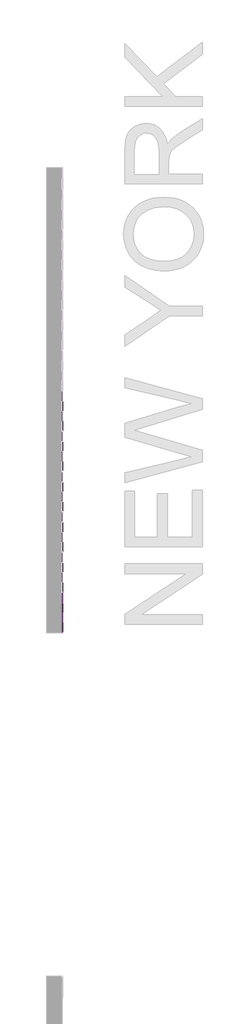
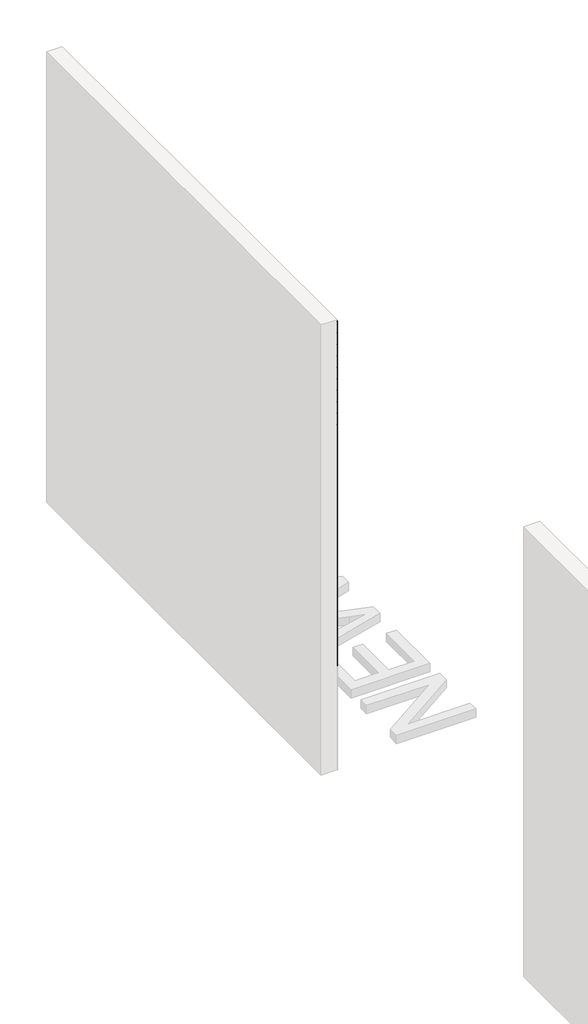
# One storey, part 21 of 45: 147 proxies.
"""IFC4 building model written with IfcOpenShell, lengths in millimetres."""

from ifc_helpers import new_model, si_unit, origin, place, context, project, spatial, transform, mapped, element, save
from components import generic_models_ab0f2c30

model = new_model("IFC4")

# Units and contexts
model_context = context("Model", 3, world=origin())
ifc_project = project(units=[si_unit("LENGTHUNIT", "METRE", prefix="MILLI")], contexts=[model_context])

# Site, building, storey
site = spatial("IfcSite", under=ifc_project)
building = spatial("IfcBuilding", under=site)
storey = spatial("IfcBuildingStorey", under=building, Name="PORTOBELLO - SHOWROOM", Elevation=0.0)

# Proxies
placement = place(None, origin())
generic_models_shape = generic_models_ab0f2c30(model_context)
element("IfcBuildingElementProxy", 1, Name="PBSHOP - HORIZONTES NEW YORK 6,5X23 : NEW YORK", ObjectType="PBSHOP - HORIZONTES NEW YORK 6,5X23 : NEW YORK", at=placement, inside=storey, context=model_context, shape_type="MappedRepresentation", body=[
    mapped(generic_models_shape, transform((69111.8826867, 6032.0036359, 34.5), x_axis=(0.0, 0.0, 1.0), y_axis=(0.0, -1.0, 0.0), z_axis=(1.0, 0.0, 0.0))),
])
element("IfcBuildingElementProxy", 2, Name="PBSHOP - HORIZONTES NEW YORK 6,5X23 : NEW YORK", ObjectType="PBSHOP - HORIZONTES NEW YORK 6,5X23 : NEW YORK", at=placement, inside=storey, context=model_context, shape_type="MappedRepresentation", body=[
    mapped(generic_models_shape, transform((69111.8826867, 6266.0036359, 34.5), x_axis=(0.0, 0.0, 1.0), y_axis=(0.0, -1.0, 0.0), z_axis=(1.0, 0.0, 0.0))),
])
element("IfcBuildingElementProxy", 3, Name="PBSHOP - HORIZONTES NEW YORK 6,5X23 : NEW YORK", ObjectType="PBSHOP - HORIZONTES NEW YORK 6,5X23 : NEW YORK", at=placement, inside=storey, context=model_context, shape_type="MappedRepresentation", body=[
    mapped(generic_models_shape, transform((69111.8826867, 6500.0036359, 34.5), x_axis=(0.0, 0.0, 1.0), y_axis=(0.0, -1.0, 0.0), z_axis=(1.0, 0.0, 0.0))),
])
element("IfcBuildingElementProxy", 4, Name="PBSHOP - HORIZONTES NEW YORK 6,5X23 : NEW YORK", ObjectType="PBSHOP - HORIZONTES NEW YORK 6,5X23 : NEW YORK", at=placement, inside=storey, context=model_context, shape_type="MappedRepresentation", body=[
    mapped(generic_models_shape, transform((69111.8826867, 6734.0036359, 34.5), x_axis=(0.0, 0.0, 1.0), y_axis=(0.0, -1.0, 0.0), z_axis=(1.0, 0.0, 0.0))),
])
element("IfcBuildingElementProxy", 5, Name="PBSHOP - HORIZONTES NEW YORK 6,5X23 : NEW YORK", ObjectType="PBSHOP - HORIZONTES NEW YORK 6,5X23 : NEW YORK", at=placement, inside=storey, context=model_context, shape_type="MappedRepresentation", body=[
    mapped(generic_models_shape, transform((69111.8826867, 6968.0036359, 34.5), x_axis=(0.0, 0.0, 1.0), y_axis=(0.0, -1.0, 0.0), z_axis=(1.0, 0.0, 0.0))),
])
element("IfcBuildingElementProxy", 6, Name="PBSHOP - HORIZONTES NEW YORK 6,5X23 : NEW YORK", ObjectType="PBSHOP - HORIZONTES NEW YORK 6,5X23 : NEW YORK", at=placement, inside=storey, context=model_context, shape_type="MappedRepresentation", body=[
    mapped(generic_models_shape, transform((69111.8826867, 6032.0036359, 103.5), x_axis=(0.0, 0.0, 1.0), y_axis=(0.0, -1.0, 0.0), z_axis=(1.0, 0.0, 0.0))),
])
element("IfcBuildingElementProxy", 7, Name="PBSHOP - HORIZONTES NEW YORK 6,5X23 : NEW YORK", ObjectType="PBSHOP - HORIZONTES NEW YORK 6,5X23 : NEW YORK", at=placement, inside=storey, context=model_context, shape_type="MappedRepresentation", body=[
    mapped(generic_models_shape, transform((69111.8826867, 6266.0036359, 103.5), x_axis=(0.0, 0.0, 1.0), y_axis=(0.0, -1.0, 0.0), z_axis=(1.0, 0.0, 0.0))),
])
element("IfcBuildingElementProxy", 8, Name="PBSHOP - HORIZONTES NEW YORK 6,5X23 : NEW YORK", ObjectType="PBSHOP - HORIZONTES NEW YORK 6,5X23 : NEW YORK", at=placement, inside=storey, context=model_context, shape_type="MappedRepresentation", body=[
    mapped(generic_models_shape, transform((69111.8826867, 6500.0036359, 103.5), x_axis=(0.0, 0.0, 1.0), y_axis=(0.0, -1.0, 0.0), z_axis=(1.0, 0.0, 0.0))),
])
element("IfcBuildingElementProxy", 9, Name="PBSHOP - HORIZONTES NEW YORK 6,5X23 : NEW YORK", ObjectType="PBSHOP - HORIZONTES NEW YORK 6,5X23 : NEW YORK", at=placement, inside=storey, context=model_context, shape_type="MappedRepresentation", body=[
    mapped(generic_models_shape, transform((69111.8826867, 6734.0036359, 103.5), x_axis=(0.0, 0.0, 1.0), y_axis=(0.0, -1.0, 0.0), z_axis=(1.0, 0.0, 0.0))),
])
element("IfcBuildingElementProxy", 10, Name="PBSHOP - HORIZONTES NEW YORK 6,5X23 : NEW YORK", ObjectType="PBSHOP - HORIZONTES NEW YORK 6,5X23 : NEW YORK", at=placement, inside=storey, context=model_context, shape_type="MappedRepresentation", body=[
    mapped(generic_models_shape, transform((69111.8826867, 6968.0036359, 103.5), x_axis=(0.0, 0.0, 1.0), y_axis=(0.0, -1.0, 0.0), z_axis=(1.0, 0.0, 0.0))),
])
element("IfcBuildingElementProxy", 11, Name="PBSHOP - HORIZONTES NEW YORK 6,5X23 : NEW YORK", ObjectType="PBSHOP - HORIZONTES NEW YORK 6,5X23 : NEW YORK", at=placement, inside=storey, context=model_context, shape_type="MappedRepresentation", body=[
    mapped(generic_models_shape, transform((69111.8826867, 6032.0036359, 172.5), x_axis=(0.0, 0.0, 1.0), y_axis=(0.0, -1.0, 0.0), z_axis=(1.0, 0.0, 0.0))),
])
element("IfcBuildingElementProxy", 12, Name="PBSHOP - HORIZONTES NEW YORK 6,5X23 : NEW YORK", ObjectType="PBSHOP - HORIZONTES NEW YORK 6,5X23 : NEW YORK", at=placement, inside=storey, context=model_context, shape_type="MappedRepresentation", body=[
    mapped(generic_models_shape, transform((69111.8826867, 6266.0036359, 172.5), x_axis=(0.0, 0.0, 1.0), y_axis=(0.0, -1.0, 0.0), z_axis=(1.0, 0.0, 0.0))),
])
element("IfcBuildingElementProxy", 13, Name="PBSHOP - HORIZONTES NEW YORK 6,5X23 : NEW YORK", ObjectType="PBSHOP - HORIZONTES NEW YORK 6,5X23 : NEW YORK", at=placement, inside=storey, context=model_context, shape_type="MappedRepresentation", body=[
    mapped(generic_models_shape, transform((69111.8826867, 6500.0036359, 172.5), x_axis=(0.0, 0.0, 1.0), y_axis=(0.0, -1.0, 0.0), z_axis=(1.0, 0.0, 0.0))),
])
element("IfcBuildingElementProxy", 14, Name="PBSHOP - HORIZONTES NEW YORK 6,5X23 : NEW YORK", ObjectType="PBSHOP - HORIZONTES NEW YORK 6,5X23 : NEW YORK", at=placement, inside=storey, context=model_context, shape_type="MappedRepresentation", body=[
    mapped(generic_models_shape, transform((69111.8826867, 6734.0036359, 172.5), x_axis=(0.0, 0.0, 1.0), y_axis=(0.0, -1.0, 0.0), z_axis=(1.0, 0.0, 0.0))),
])
element("IfcBuildingElementProxy", 15, Name="PBSHOP - HORIZONTES NEW YORK 6,5X23 : NEW YORK", ObjectType="PBSHOP - HORIZONTES NEW YORK 6,5X23 : NEW YORK", at=placement, inside=storey, context=model_context, shape_type="MappedRepresentation", body=[
    mapped(generic_models_shape, transform((69111.8826867, 6968.0036359, 172.5), x_axis=(0.0, 0.0, 1.0), y_axis=(0.0, -1.0, 0.0), z_axis=(1.0, 0.0, 0.0))),
])
element("IfcBuildingElementProxy", 16, Name="PBSHOP - HORIZONTES NEW YORK 6,5X23 : NEW YORK", ObjectType="PBSHOP - HORIZONTES NEW YORK 6,5X23 : NEW YORK", at=placement, inside=storey, context=model_context, shape_type="MappedRepresentation", body=[
    mapped(generic_models_shape, transform((69111.8826867, 6032.0036359, 241.5), x_axis=(0.0, 0.0, 1.0), y_axis=(0.0, -1.0, 0.0), z_axis=(1.0, 0.0, 0.0))),
])
element("IfcBuildingElementProxy", 17, Name="PBSHOP - HORIZONTES NEW YORK 6,5X23 : NEW YORK", ObjectType="PBSHOP - HORIZONTES NEW YORK 6,5X23 : NEW YORK", at=placement, inside=storey, context=model_context, shape_type="MappedRepresentation", body=[
    mapped(generic_models_shape, transform((69111.8826867, 6266.0036359, 241.5), x_axis=(0.0, 0.0, 1.0), y_axis=(0.0, -1.0, 0.0), z_axis=(1.0, 0.0, 0.0))),
])
element("IfcBuildingElementProxy", 18, Name="PBSHOP - HORIZONTES NEW YORK 6,5X23 : NEW YORK", ObjectType="PBSHOP - HORIZONTES NEW YORK 6,5X23 : NEW YORK", at=placement, inside=storey, context=model_context, shape_type="MappedRepresentation", body=[
    mapped(generic_models_shape, transform((69111.8826867, 6500.0036359, 241.5), x_axis=(0.0, 0.0, 1.0), y_axis=(0.0, -1.0, 0.0), z_axis=(1.0, 0.0, 0.0))),
])
element("IfcBuildingElementProxy", 19, Name="PBSHOP - HORIZONTES NEW YORK 6,5X23 : NEW YORK", ObjectType="PBSHOP - HORIZONTES NEW YORK 6,5X23 : NEW YORK", at=placement, inside=storey, context=model_context, shape_type="MappedRepresentation", body=[
    mapped(generic_models_shape, transform((69111.8826867, 6734.0036359, 241.5), x_axis=(0.0, 0.0, 1.0), y_axis=(0.0, -1.0, 0.0), z_axis=(1.0, 0.0, 0.0))),
])
element("IfcBuildingElementProxy", 20, Name="PBSHOP - HORIZONTES NEW YORK 6,5X23 : NEW YORK", ObjectType="PBSHOP - HORIZONTES NEW YORK 6,5X23 : NEW YORK", at=placement, inside=storey, context=model_context, shape_type="MappedRepresentation", body=[
    mapped(generic_models_shape, transform((69111.8826867, 6968.0036359, 241.5), x_axis=(0.0, 0.0, 1.0), y_axis=(0.0, -1.0, 0.0), z_axis=(1.0, 0.0, 0.0))),
])
element("IfcBuildingElementProxy", 21, Name="PBSHOP - HORIZONTES NEW YORK 6,5X23 : NEW YORK", ObjectType="PBSHOP - HORIZONTES NEW YORK 6,5X23 : NEW YORK", at=placement, inside=storey, context=model_context, shape_type="MappedRepresentation", body=[
    mapped(generic_models_shape, transform((69111.8826867, 6032.0036359, 310.5), x_axis=(0.0, 0.0, 1.0), y_axis=(0.0, -1.0, 0.0), z_axis=(1.0, 0.0, 0.0))),
])
element("IfcBuildingElementProxy", 22, Name="PBSHOP - HORIZONTES NEW YORK 6,5X23 : NEW YORK", ObjectType="PBSHOP - HORIZONTES NEW YORK 6,5X23 : NEW YORK", at=placement, inside=storey, context=model_context, shape_type="MappedRepresentation", body=[
    mapped(generic_models_shape, transform((69111.8826867, 6266.0036359, 310.5), x_axis=(0.0, 0.0, 1.0), y_axis=(0.0, -1.0, 0.0), z_axis=(1.0, 0.0, 0.0))),
])
element("IfcBuildingElementProxy", 23, Name="PBSHOP - HORIZONTES NEW YORK 6,5X23 : NEW YORK", ObjectType="PBSHOP - HORIZONTES NEW YORK 6,5X23 : NEW YORK", at=placement, inside=storey, context=model_context, shape_type="MappedRepresentation", body=[
    mapped(generic_models_shape, transform((69111.8826867, 6500.0036359, 310.5), x_axis=(0.0, 0.0, 1.0), y_axis=(0.0, -1.0, 0.0), z_axis=(1.0, 0.0, 0.0))),
])
element("IfcBuildingElementProxy", 24, Name="PBSHOP - HORIZONTES NEW YORK 6,5X23 : NEW YORK", ObjectType="PBSHOP - HORIZONTES NEW YORK 6,5X23 : NEW YORK", at=placement, inside=storey, context=model_context, shape_type="MappedRepresentation", body=[
    mapped(generic_models_shape, transform((69111.8826867, 6734.0036359, 310.5), x_axis=(0.0, 0.0, 1.0), y_axis=(0.0, -1.0, 0.0), z_axis=(1.0, 0.0, 0.0))),
])
element("IfcBuildingElementProxy", 25, Name="PBSHOP - HORIZONTES NEW YORK 6,5X23 : NEW YORK", ObjectType="PBSHOP - HORIZONTES NEW YORK 6,5X23 : NEW YORK", at=placement, inside=storey, context=model_context, shape_type="MappedRepresentation", body=[
    mapped(generic_models_shape, transform((69111.8826867, 6968.0036359, 310.5), x_axis=(0.0, 0.0, 1.0), y_axis=(0.0, -1.0, 0.0), z_axis=(1.0, 0.0, 0.0))),
])
element("IfcBuildingElementProxy", 26, Name="PBSHOP - HORIZONTES NEW YORK 6,5X23 : NEW YORK", ObjectType="PBSHOP - HORIZONTES NEW YORK 6,5X23 : NEW YORK", at=placement, inside=storey, context=model_context, shape_type="MappedRepresentation", body=[
    mapped(generic_models_shape, transform((69111.8826867, 6032.0036359, 379.5), x_axis=(0.0, 0.0, 1.0), y_axis=(0.0, -1.0, 0.0), z_axis=(1.0, 0.0, 0.0))),
])
element("IfcBuildingElementProxy", 27, Name="PBSHOP - HORIZONTES NEW YORK 6,5X23 : NEW YORK", ObjectType="PBSHOP - HORIZONTES NEW YORK 6,5X23 : NEW YORK", at=placement, inside=storey, context=model_context, shape_type="MappedRepresentation", body=[
    mapped(generic_models_shape, transform((69111.8826867, 6266.0036359, 379.5), x_axis=(0.0, 0.0, 1.0), y_axis=(0.0, -1.0, 0.0), z_axis=(1.0, 0.0, 0.0))),
])
element("IfcBuildingElementProxy", 28, Name="PBSHOP - HORIZONTES NEW YORK 6,5X23 : NEW YORK", ObjectType="PBSHOP - HORIZONTES NEW YORK 6,5X23 : NEW YORK", at=placement, inside=storey, context=model_context, shape_type="MappedRepresentation", body=[
    mapped(generic_models_shape, transform((69111.8826867, 6500.0036359, 379.5), x_axis=(0.0, 0.0, 1.0), y_axis=(0.0, -1.0, 0.0), z_axis=(1.0, 0.0, 0.0))),
])
element("IfcBuildingElementProxy", 29, Name="PBSHOP - HORIZONTES NEW YORK 6,5X23 : NEW YORK", ObjectType="PBSHOP - HORIZONTES NEW YORK 6,5X23 : NEW YORK", at=placement, inside=storey, context=model_context, shape_type="MappedRepresentation", body=[
    mapped(generic_models_shape, transform((69111.8826867, 6734.0036359, 379.5), x_axis=(0.0, 0.0, 1.0), y_axis=(0.0, -1.0, 0.0), z_axis=(1.0, 0.0, 0.0))),
])
element("IfcBuildingElementProxy", 30, Name="PBSHOP - HORIZONTES NEW YORK 6,5X23 : NEW YORK", ObjectType="PBSHOP - HORIZONTES NEW YORK 6,5X23 : NEW YORK", at=placement, inside=storey, context=model_context, shape_type="MappedRepresentation", body=[
    mapped(generic_models_shape, transform((69111.8826867, 6968.0036359, 379.5), x_axis=(0.0, 0.0, 1.0), y_axis=(0.0, -1.0, 0.0), z_axis=(1.0, 0.0, 0.0))),
])
element("IfcBuildingElementProxy", 31, Name="PBSHOP - HORIZONTES NEW YORK 6,5X23 : NEW YORK", ObjectType="PBSHOP - HORIZONTES NEW YORK 6,5X23 : NEW YORK", at=placement, inside=storey, context=model_context, shape_type="MappedRepresentation", body=[
    mapped(generic_models_shape, transform((69111.8826867, 6032.0036359, 448.5), x_axis=(0.0, 0.0, 1.0), y_axis=(0.0, -1.0, 0.0), z_axis=(1.0, 0.0, 0.0))),
])
element("IfcBuildingElementProxy", 32, Name="PBSHOP - HORIZONTES NEW YORK 6,5X23 : NEW YORK", ObjectType="PBSHOP - HORIZONTES NEW YORK 6,5X23 : NEW YORK", at=placement, inside=storey, context=model_context, shape_type="MappedRepresentation", body=[
    mapped(generic_models_shape, transform((69111.8826867, 6266.0036359, 448.5), x_axis=(0.0, 0.0, 1.0), y_axis=(0.0, -1.0, 0.0), z_axis=(1.0, 0.0, 0.0))),
])
element("IfcBuildingElementProxy", 33, Name="PBSHOP - HORIZONTES NEW YORK 6,5X23 : NEW YORK", ObjectType="PBSHOP - HORIZONTES NEW YORK 6,5X23 : NEW YORK", at=placement, inside=storey, context=model_context, shape_type="MappedRepresentation", body=[
    mapped(generic_models_shape, transform((69111.8826867, 6500.0036359, 448.5), x_axis=(0.0, 0.0, 1.0), y_axis=(0.0, -1.0, 0.0), z_axis=(1.0, 0.0, 0.0))),
])
element("IfcBuildingElementProxy", 34, Name="PBSHOP - HORIZONTES NEW YORK 6,5X23 : NEW YORK", ObjectType="PBSHOP - HORIZONTES NEW YORK 6,5X23 : NEW YORK", at=placement, inside=storey, context=model_context, shape_type="MappedRepresentation", body=[
    mapped(generic_models_shape, transform((69111.8826867, 6734.0036359, 448.5), x_axis=(0.0, 0.0, 1.0), y_axis=(0.0, -1.0, 0.0), z_axis=(1.0, 0.0, 0.0))),
])
element("IfcBuildingElementProxy", 35, Name="PBSHOP - HORIZONTES NEW YORK 6,5X23 : NEW YORK", ObjectType="PBSHOP - HORIZONTES NEW YORK 6,5X23 : NEW YORK", at=placement, inside=storey, context=model_context, shape_type="MappedRepresentation", body=[
    mapped(generic_models_shape, transform((69111.8826867, 6968.0036359, 448.5), x_axis=(0.0, 0.0, 1.0), y_axis=(0.0, -1.0, 0.0), z_axis=(1.0, 0.0, 0.0))),
])
element("IfcBuildingElementProxy", 36, Name="PBSHOP - HORIZONTES NEW YORK 6,5X23 : NEW YORK", ObjectType="PBSHOP - HORIZONTES NEW YORK 6,5X23 : NEW YORK", at=placement, inside=storey, context=model_context, shape_type="MappedRepresentation", body=[
    mapped(generic_models_shape, transform((69111.8826867, 6032.0036359, 517.5), x_axis=(0.0, 0.0, 1.0), y_axis=(0.0, -1.0, 0.0), z_axis=(1.0, 0.0, 0.0))),
])
element("IfcBuildingElementProxy", 37, Name="PBSHOP - HORIZONTES NEW YORK 6,5X23 : NEW YORK", ObjectType="PBSHOP - HORIZONTES NEW YORK 6,5X23 : NEW YORK", at=placement, inside=storey, context=model_context, shape_type="MappedRepresentation", body=[
    mapped(generic_models_shape, transform((69111.8826867, 6266.0036359, 517.5), x_axis=(0.0, 0.0, 1.0), y_axis=(0.0, -1.0, 0.0), z_axis=(1.0, 0.0, 0.0))),
])
element("IfcBuildingElementProxy", 38, Name="PBSHOP - HORIZONTES NEW YORK 6,5X23 : NEW YORK", ObjectType="PBSHOP - HORIZONTES NEW YORK 6,5X23 : NEW YORK", at=placement, inside=storey, context=model_context, shape_type="MappedRepresentation", body=[
    mapped(generic_models_shape, transform((69111.8826867, 6500.0036359, 517.5), x_axis=(0.0, 0.0, 1.0), y_axis=(0.0, -1.0, 0.0), z_axis=(1.0, 0.0, 0.0))),
])
element("IfcBuildingElementProxy", 39, Name="PBSHOP - HORIZONTES NEW YORK 6,5X23 : NEW YORK", ObjectType="PBSHOP - HORIZONTES NEW YORK 6,5X23 : NEW YORK", at=placement, inside=storey, context=model_context, shape_type="MappedRepresentation", body=[
    mapped(generic_models_shape, transform((69111.8826867, 6734.0036359, 517.5), x_axis=(0.0, 0.0, 1.0), y_axis=(0.0, -1.0, 0.0), z_axis=(1.0, 0.0, 0.0))),
])
element("IfcBuildingElementProxy", 40, Name="PBSHOP - HORIZONTES NEW YORK 6,5X23 : NEW YORK", ObjectType="PBSHOP - HORIZONTES NEW YORK 6,5X23 : NEW YORK", at=placement, inside=storey, context=model_context, shape_type="MappedRepresentation", body=[
    mapped(generic_models_shape, transform((69111.8826867, 6968.0036359, 517.5), x_axis=(0.0, 0.0, 1.0), y_axis=(0.0, -1.0, 0.0), z_axis=(1.0, 0.0, 0.0))),
])
element("IfcBuildingElementProxy", 41, Name="PBSHOP - HORIZONTES NEW YORK 6,5X23 : NEW YORK", ObjectType="PBSHOP - HORIZONTES NEW YORK 6,5X23 : NEW YORK", at=placement, inside=storey, context=model_context, shape_type="MappedRepresentation", body=[
    mapped(generic_models_shape, transform((69111.8826867, 6032.0036359, 586.5), x_axis=(0.0, 0.0, 1.0), y_axis=(0.0, -1.0, 0.0), z_axis=(1.0, 0.0, 0.0))),
])
element("IfcBuildingElementProxy", 42, Name="PBSHOP - HORIZONTES NEW YORK 6,5X23 : NEW YORK", ObjectType="PBSHOP - HORIZONTES NEW YORK 6,5X23 : NEW YORK", at=placement, inside=storey, context=model_context, shape_type="MappedRepresentation", body=[
    mapped(generic_models_shape, transform((69111.8826867, 6266.0036359, 586.5), x_axis=(0.0, 0.0, 1.0), y_axis=(0.0, -1.0, 0.0), z_axis=(1.0, 0.0, 0.0))),
])
element("IfcBuildingElementProxy", 43, Name="PBSHOP - HORIZONTES NEW YORK 6,5X23 : NEW YORK", ObjectType="PBSHOP - HORIZONTES NEW YORK 6,5X23 : NEW YORK", at=placement, inside=storey, context=model_context, shape_type="MappedRepresentation", body=[
    mapped(generic_models_shape, transform((69111.8826867, 6500.0036359, 586.5), x_axis=(0.0, 0.0, 1.0), y_axis=(0.0, -1.0, 0.0), z_axis=(1.0, 0.0, 0.0))),
])
element("IfcBuildingElementProxy", 44, Name="PBSHOP - HORIZONTES NEW YORK 6,5X23 : NEW YORK", ObjectType="PBSHOP - HORIZONTES NEW YORK 6,5X23 : NEW YORK", at=placement, inside=storey, context=model_context, shape_type="MappedRepresentation", body=[
    mapped(generic_models_shape, transform((69111.8826867, 6734.0036359, 586.5), x_axis=(0.0, 0.0, 1.0), y_axis=(0.0, -1.0, 0.0), z_axis=(1.0, 0.0, 0.0))),
])
element("IfcBuildingElementProxy", 45, Name="PBSHOP - HORIZONTES NEW YORK 6,5X23 : NEW YORK", ObjectType="PBSHOP - HORIZONTES NEW YORK 6,5X23 : NEW YORK", at=placement, inside=storey, context=model_context, shape_type="MappedRepresentation", body=[
    mapped(generic_models_shape, transform((69111.8826867, 6968.0036359, 586.5), x_axis=(0.0, 0.0, 1.0), y_axis=(0.0, -1.0, 0.0), z_axis=(1.0, 0.0, 0.0))),
])
element("IfcBuildingElementProxy", 46, Name="PBSHOP - HORIZONTES NEW YORK 6,5X23 : NEW YORK", ObjectType="PBSHOP - HORIZONTES NEW YORK 6,5X23 : NEW YORK", at=placement, inside=storey, context=model_context, shape_type="MappedRepresentation", body=[
    mapped(generic_models_shape, transform((69111.8826867, 5798.0036359, 655.5), x_axis=(0.0, 0.0, 1.0), y_axis=(0.0, -1.0, 0.0), z_axis=(1.0, 0.0, 0.0))),
])
element("IfcBuildingElementProxy", 47, Name="PBSHOP - HORIZONTES NEW YORK 6,5X23 : NEW YORK", ObjectType="PBSHOP - HORIZONTES NEW YORK 6,5X23 : NEW YORK", at=placement, inside=storey, context=model_context, shape_type="MappedRepresentation", body=[
    mapped(generic_models_shape, transform((69111.8826867, 6032.0036359, 655.5), x_axis=(0.0, 0.0, 1.0), y_axis=(0.0, -1.0, 0.0), z_axis=(1.0, 0.0, 0.0))),
])
element("IfcBuildingElementProxy", 48, Name="PBSHOP - HORIZONTES NEW YORK 6,5X23 : NEW YORK", ObjectType="PBSHOP - HORIZONTES NEW YORK 6,5X23 : NEW YORK", at=placement, inside=storey, context=model_context, shape_type="MappedRepresentation", body=[
    mapped(generic_models_shape, transform((69111.8826867, 6266.0036359, 655.5), x_axis=(0.0, 0.0, 1.0), y_axis=(0.0, -1.0, 0.0), z_axis=(1.0, 0.0, 0.0))),
])
element("IfcBuildingElementProxy", 49, Name="PBSHOP - HORIZONTES NEW YORK 6,5X23 : NEW YORK", ObjectType="PBSHOP - HORIZONTES NEW YORK 6,5X23 : NEW YORK", at=placement, inside=storey, context=model_context, shape_type="MappedRepresentation", body=[
    mapped(generic_models_shape, transform((69111.8826867, 6500.0036359, 655.5), x_axis=(0.0, 0.0, 1.0), y_axis=(0.0, -1.0, 0.0), z_axis=(1.0, 0.0, 0.0))),
])
element("IfcBuildingElementProxy", 50, Name="PBSHOP - HORIZONTES NEW YORK 6,5X23 : NEW YORK", ObjectType="PBSHOP - HORIZONTES NEW YORK 6,5X23 : NEW YORK", at=placement, inside=storey, context=model_context, shape_type="MappedRepresentation", body=[
    mapped(generic_models_shape, transform((69111.8826867, 6734.0036359, 655.5), x_axis=(0.0, 0.0, 1.0), y_axis=(0.0, -1.0, 0.0), z_axis=(1.0, 0.0, 0.0))),
])
element("IfcBuildingElementProxy", 51, Name="PBSHOP - HORIZONTES NEW YORK 6,5X23 : NEW YORK", ObjectType="PBSHOP - HORIZONTES NEW YORK 6,5X23 : NEW YORK", at=placement, inside=storey, context=model_context, shape_type="MappedRepresentation", body=[
    mapped(generic_models_shape, transform((69111.8826867, 6968.0036359, 655.5), x_axis=(0.0, 0.0, 1.0), y_axis=(0.0, -1.0, 0.0), z_axis=(1.0, 0.0, 0.0))),
])
element("IfcBuildingElementProxy", 52, Name="PBSHOP - HORIZONTES NEW YORK 6,5X23 : NEW YORK", ObjectType="PBSHOP - HORIZONTES NEW YORK 6,5X23 : NEW YORK", at=placement, inside=storey, context=model_context, shape_type="MappedRepresentation", body=[
    mapped(generic_models_shape, transform((69111.8826867, 5798.0036359, 724.5), x_axis=(0.0, 0.0, 1.0), y_axis=(0.0, -1.0, 0.0), z_axis=(1.0, 0.0, 0.0))),
])
element("IfcBuildingElementProxy", 53, Name="PBSHOP - HORIZONTES NEW YORK 6,5X23 : NEW YORK", ObjectType="PBSHOP - HORIZONTES NEW YORK 6,5X23 : NEW YORK", at=placement, inside=storey, context=model_context, shape_type="MappedRepresentation", body=[
    mapped(generic_models_shape, transform((69111.8826867, 6032.0036359, 724.5), x_axis=(0.0, 0.0, 1.0), y_axis=(0.0, -1.0, 0.0), z_axis=(1.0, 0.0, 0.0))),
])
element("IfcBuildingElementProxy", 54, Name="PBSHOP - HORIZONTES NEW YORK 6,5X23 : NEW YORK", ObjectType="PBSHOP - HORIZONTES NEW YORK 6,5X23 : NEW YORK", at=placement, inside=storey, context=model_context, shape_type="MappedRepresentation", body=[
    mapped(generic_models_shape, transform((69111.8826867, 6266.0036359, 724.5), x_axis=(0.0, 0.0, 1.0), y_axis=(0.0, -1.0, 0.0), z_axis=(1.0, 0.0, 0.0))),
])
element("IfcBuildingElementProxy", 55, Name="PBSHOP - HORIZONTES NEW YORK 6,5X23 : NEW YORK", ObjectType="PBSHOP - HORIZONTES NEW YORK 6,5X23 : NEW YORK", at=placement, inside=storey, context=model_context, shape_type="MappedRepresentation", body=[
    mapped(generic_models_shape, transform((69111.8826867, 6500.0036359, 724.5), x_axis=(0.0, 0.0, 1.0), y_axis=(0.0, -1.0, 0.0), z_axis=(1.0, 0.0, 0.0))),
])
element("IfcBuildingElementProxy", 56, Name="PBSHOP - HORIZONTES NEW YORK 6,5X23 : NEW YORK", ObjectType="PBSHOP - HORIZONTES NEW YORK 6,5X23 : NEW YORK", at=placement, inside=storey, context=model_context, shape_type="MappedRepresentation", body=[
    mapped(generic_models_shape, transform((69111.8826867, 6734.0036359, 724.5), x_axis=(0.0, 0.0, 1.0), y_axis=(0.0, -1.0, 0.0), z_axis=(1.0, 0.0, 0.0))),
])
element("IfcBuildingElementProxy", 57, Name="PBSHOP - HORIZONTES NEW YORK 6,5X23 : NEW YORK", ObjectType="PBSHOP - HORIZONTES NEW YORK 6,5X23 : NEW YORK", at=placement, inside=storey, context=model_context, shape_type="MappedRepresentation", body=[
    mapped(generic_models_shape, transform((69111.8826867, 6968.0036359, 724.5), x_axis=(0.0, 0.0, 1.0), y_axis=(0.0, -1.0, 0.0), z_axis=(1.0, 0.0, 0.0))),
])
element("IfcBuildingElementProxy", 58, Name="PBSHOP - HORIZONTES NEW YORK 6,5X23 : NEW YORK", ObjectType="PBSHOP - HORIZONTES NEW YORK 6,5X23 : NEW YORK", at=placement, inside=storey, context=model_context, shape_type="MappedRepresentation", body=[
    mapped(generic_models_shape, transform((69111.8826867, 5798.0036359, 793.5), x_axis=(0.0, 0.0, 1.0), y_axis=(0.0, -1.0, 0.0), z_axis=(1.0, 0.0, 0.0))),
])
element("IfcBuildingElementProxy", 59, Name="PBSHOP - HORIZONTES NEW YORK 6,5X23 : NEW YORK", ObjectType="PBSHOP - HORIZONTES NEW YORK 6,5X23 : NEW YORK", at=placement, inside=storey, context=model_context, shape_type="MappedRepresentation", body=[
    mapped(generic_models_shape, transform((69111.8826867, 6032.0036359, 793.5), x_axis=(0.0, 0.0, 1.0), y_axis=(0.0, -1.0, 0.0), z_axis=(1.0, 0.0, 0.0))),
])
element("IfcBuildingElementProxy", 60, Name="PBSHOP - HORIZONTES NEW YORK 6,5X23 : NEW YORK", ObjectType="PBSHOP - HORIZONTES NEW YORK 6,5X23 : NEW YORK", at=placement, inside=storey, context=model_context, shape_type="MappedRepresentation", body=[
    mapped(generic_models_shape, transform((69111.8826867, 6266.0036359, 793.5), x_axis=(0.0, 0.0, 1.0), y_axis=(0.0, -1.0, 0.0), z_axis=(1.0, 0.0, 0.0))),
])
element("IfcBuildingElementProxy", 61, Name="PBSHOP - HORIZONTES NEW YORK 6,5X23 : NEW YORK", ObjectType="PBSHOP - HORIZONTES NEW YORK 6,5X23 : NEW YORK", at=placement, inside=storey, context=model_context, shape_type="MappedRepresentation", body=[
    mapped(generic_models_shape, transform((69111.8826867, 6500.0036359, 793.5), x_axis=(0.0, 0.0, 1.0), y_axis=(0.0, -1.0, 0.0), z_axis=(1.0, 0.0, 0.0))),
])
element("IfcBuildingElementProxy", 62, Name="PBSHOP - HORIZONTES NEW YORK 6,5X23 : NEW YORK", ObjectType="PBSHOP - HORIZONTES NEW YORK 6,5X23 : NEW YORK", at=placement, inside=storey, context=model_context, shape_type="MappedRepresentation", body=[
    mapped(generic_models_shape, transform((69111.8826867, 6734.0036359, 793.5), x_axis=(0.0, 0.0, 1.0), y_axis=(0.0, -1.0, 0.0), z_axis=(1.0, 0.0, 0.0))),
])
element("IfcBuildingElementProxy", 63, Name="PBSHOP - HORIZONTES NEW YORK 6,5X23 : NEW YORK", ObjectType="PBSHOP - HORIZONTES NEW YORK 6,5X23 : NEW YORK", at=placement, inside=storey, context=model_context, shape_type="MappedRepresentation", body=[
    mapped(generic_models_shape, transform((69111.8826867, 6968.0036359, 793.5), x_axis=(0.0, 0.0, 1.0), y_axis=(0.0, -1.0, 0.0), z_axis=(1.0, 0.0, 0.0))),
])
element("IfcBuildingElementProxy", 64, Name="PBSHOP - HORIZONTES NEW YORK 6,5X23 : NEW YORK", ObjectType="PBSHOP - HORIZONTES NEW YORK 6,5X23 : NEW YORK", at=placement, inside=storey, context=model_context, shape_type="MappedRepresentation", body=[
    mapped(generic_models_shape, transform((69111.8826867, 5798.0036359, 862.5), x_axis=(0.0, 0.0, 1.0), y_axis=(0.0, -1.0, 0.0), z_axis=(1.0, 0.0, 0.0))),
])
element("IfcBuildingElementProxy", 65, Name="PBSHOP - HORIZONTES NEW YORK 6,5X23 : NEW YORK", ObjectType="PBSHOP - HORIZONTES NEW YORK 6,5X23 : NEW YORK", at=placement, inside=storey, context=model_context, shape_type="MappedRepresentation", body=[
    mapped(generic_models_shape, transform((69111.8826867, 6032.0036359, 862.5), x_axis=(0.0, 0.0, 1.0), y_axis=(0.0, -1.0, 0.0), z_axis=(1.0, 0.0, 0.0))),
])
element("IfcBuildingElementProxy", 66, Name="PBSHOP - HORIZONTES NEW YORK 6,5X23 : NEW YORK", ObjectType="PBSHOP - HORIZONTES NEW YORK 6,5X23 : NEW YORK", at=placement, inside=storey, context=model_context, shape_type="MappedRepresentation", body=[
    mapped(generic_models_shape, transform((69111.8826867, 6266.0036359, 862.5), x_axis=(0.0, 0.0, 1.0), y_axis=(0.0, -1.0, 0.0), z_axis=(1.0, 0.0, 0.0))),
])
element("IfcBuildingElementProxy", 67, Name="PBSHOP - HORIZONTES NEW YORK 6,5X23 : NEW YORK", ObjectType="PBSHOP - HORIZONTES NEW YORK 6,5X23 : NEW YORK", at=placement, inside=storey, context=model_context, shape_type="MappedRepresentation", body=[
    mapped(generic_models_shape, transform((69111.8826867, 6500.0036359, 862.5), x_axis=(0.0, 0.0, 1.0), y_axis=(0.0, -1.0, 0.0), z_axis=(1.0, 0.0, 0.0))),
])
element("IfcBuildingElementProxy", 68, Name="PBSHOP - HORIZONTES NEW YORK 6,5X23 : NEW YORK", ObjectType="PBSHOP - HORIZONTES NEW YORK 6,5X23 : NEW YORK", at=placement, inside=storey, context=model_context, shape_type="MappedRepresentation", body=[
    mapped(generic_models_shape, transform((69111.8826867, 6734.0036359, 862.5), x_axis=(0.0, 0.0, 1.0), y_axis=(0.0, -1.0, 0.0), z_axis=(1.0, 0.0, 0.0))),
])
element("IfcBuildingElementProxy", 69, Name="PBSHOP - HORIZONTES NEW YORK 6,5X23 : NEW YORK", ObjectType="PBSHOP - HORIZONTES NEW YORK 6,5X23 : NEW YORK", at=placement, inside=storey, context=model_context, shape_type="MappedRepresentation", body=[
    mapped(generic_models_shape, transform((69111.8826867, 6968.0036359, 862.5), x_axis=(0.0, 0.0, 1.0), y_axis=(0.0, -1.0, 0.0), z_axis=(1.0, 0.0, 0.0))),
])
element("IfcBuildingElementProxy", 70, Name="PBSHOP - HORIZONTES NEW YORK 6,5X23 : NEW YORK", ObjectType="PBSHOP - HORIZONTES NEW YORK 6,5X23 : NEW YORK", at=placement, inside=storey, context=model_context, shape_type="MappedRepresentation", body=[
    mapped(generic_models_shape, transform((69111.8826867, 5798.0036359, 931.5), x_axis=(0.0, 0.0, 1.0), y_axis=(0.0, -1.0, 0.0), z_axis=(1.0, 0.0, 0.0))),
])
element("IfcBuildingElementProxy", 71, Name="PBSHOP - HORIZONTES NEW YORK 6,5X23 : NEW YORK", ObjectType="PBSHOP - HORIZONTES NEW YORK 6,5X23 : NEW YORK", at=placement, inside=storey, context=model_context, shape_type="MappedRepresentation", body=[
    mapped(generic_models_shape, transform((69111.8826867, 6032.0036359, 931.5), x_axis=(0.0, 0.0, 1.0), y_axis=(0.0, -1.0, 0.0), z_axis=(1.0, 0.0, 0.0))),
])
element("IfcBuildingElementProxy", 72, Name="PBSHOP - HORIZONTES NEW YORK 6,5X23 : NEW YORK", ObjectType="PBSHOP - HORIZONTES NEW YORK 6,5X23 : NEW YORK", at=placement, inside=storey, context=model_context, shape_type="MappedRepresentation", body=[
    mapped(generic_models_shape, transform((69111.8826867, 6266.0036359, 931.5), x_axis=(0.0, 0.0, 1.0), y_axis=(0.0, -1.0, 0.0), z_axis=(1.0, 0.0, 0.0))),
])
element("IfcBuildingElementProxy", 73, Name="PBSHOP - HORIZONTES NEW YORK 6,5X23 : NEW YORK", ObjectType="PBSHOP - HORIZONTES NEW YORK 6,5X23 : NEW YORK", at=placement, inside=storey, context=model_context, shape_type="MappedRepresentation", body=[
    mapped(generic_models_shape, transform((69111.8826867, 6500.0036359, 931.5), x_axis=(0.0, 0.0, 1.0), y_axis=(0.0, -1.0, 0.0), z_axis=(1.0, 0.0, 0.0))),
])
element("IfcBuildingElementProxy", 74, Name="PBSHOP - HORIZONTES NEW YORK 6,5X23 : NEW YORK", ObjectType="PBSHOP - HORIZONTES NEW YORK 6,5X23 : NEW YORK", at=placement, inside=storey, context=model_context, shape_type="MappedRepresentation", body=[
    mapped(generic_models_shape, transform((69111.8826867, 6734.0036359, 931.5), x_axis=(0.0, 0.0, 1.0), y_axis=(0.0, -1.0, 0.0), z_axis=(1.0, 0.0, 0.0))),
])
element("IfcBuildingElementProxy", 75, Name="PBSHOP - HORIZONTES NEW YORK 6,5X23 : NEW YORK", ObjectType="PBSHOP - HORIZONTES NEW YORK 6,5X23 : NEW YORK", at=placement, inside=storey, context=model_context, shape_type="MappedRepresentation", body=[
    mapped(generic_models_shape, transform((69111.8826867, 6968.0036359, 931.5), x_axis=(0.0, 0.0, 1.0), y_axis=(0.0, -1.0, 0.0), z_axis=(1.0, 0.0, 0.0))),
])
element("IfcBuildingElementProxy", 76, Name="PBSHOP - HORIZONTES NEW YORK 6,5X23 : NEW YORK", ObjectType="PBSHOP - HORIZONTES NEW YORK 6,5X23 : NEW YORK", at=placement, inside=storey, context=model_context, shape_type="MappedRepresentation", body=[
    mapped(generic_models_shape, transform((69111.8826867, 5798.0036359, 1000.5), x_axis=(0.0, 0.0, 1.0), y_axis=(0.0, -1.0, 0.0), z_axis=(1.0, 0.0, 0.0))),
])
element("IfcBuildingElementProxy", 77, Name="PBSHOP - HORIZONTES NEW YORK 6,5X23 : NEW YORK", ObjectType="PBSHOP - HORIZONTES NEW YORK 6,5X23 : NEW YORK", at=placement, inside=storey, context=model_context, shape_type="MappedRepresentation", body=[
    mapped(generic_models_shape, transform((69111.8826867, 6032.0036359, 1000.5), x_axis=(0.0, 0.0, 1.0), y_axis=(0.0, -1.0, 0.0), z_axis=(1.0, 0.0, 0.0))),
])
element("IfcBuildingElementProxy", 78, Name="PBSHOP - HORIZONTES NEW YORK 6,5X23 : NEW YORK", ObjectType="PBSHOP - HORIZONTES NEW YORK 6,5X23 : NEW YORK", at=placement, inside=storey, context=model_context, shape_type="MappedRepresentation", body=[
    mapped(generic_models_shape, transform((69111.8826867, 6266.0036359, 1000.5), x_axis=(0.0, 0.0, 1.0), y_axis=(0.0, -1.0, 0.0), z_axis=(1.0, 0.0, 0.0))),
])
element("IfcBuildingElementProxy", 79, Name="PBSHOP - HORIZONTES NEW YORK 6,5X23 : NEW YORK", ObjectType="PBSHOP - HORIZONTES NEW YORK 6,5X23 : NEW YORK", at=placement, inside=storey, context=model_context, shape_type="MappedRepresentation", body=[
    mapped(generic_models_shape, transform((69111.8826867, 6500.0036359, 1000.5), x_axis=(0.0, 0.0, 1.0), y_axis=(0.0, -1.0, 0.0), z_axis=(1.0, 0.0, 0.0))),
])
element("IfcBuildingElementProxy", 80, Name="PBSHOP - HORIZONTES NEW YORK 6,5X23 : NEW YORK", ObjectType="PBSHOP - HORIZONTES NEW YORK 6,5X23 : NEW YORK", at=placement, inside=storey, context=model_context, shape_type="MappedRepresentation", body=[
    mapped(generic_models_shape, transform((69111.8826867, 6734.0036359, 1000.5), x_axis=(0.0, 0.0, 1.0), y_axis=(0.0, -1.0, 0.0), z_axis=(1.0, 0.0, 0.0))),
])
element("IfcBuildingElementProxy", 81, Name="PBSHOP - HORIZONTES NEW YORK 6,5X23 : NEW YORK", ObjectType="PBSHOP - HORIZONTES NEW YORK 6,5X23 : NEW YORK", at=placement, inside=storey, context=model_context, shape_type="MappedRepresentation", body=[
    mapped(generic_models_shape, transform((69111.8826867, 6968.0036359, 1000.5), x_axis=(0.0, 0.0, 1.0), y_axis=(0.0, -1.0, 0.0), z_axis=(1.0, 0.0, 0.0))),
])
element("IfcBuildingElementProxy", 82, Name="PBSHOP - HORIZONTES NEW YORK 6,5X23 : NEW YORK", ObjectType="PBSHOP - HORIZONTES NEW YORK 6,5X23 : NEW YORK", at=placement, inside=storey, context=model_context, shape_type="MappedRepresentation", body=[
    mapped(generic_models_shape, transform((69111.8826867, 5798.0036359, 1069.5), x_axis=(0.0, 0.0, 1.0), y_axis=(0.0, -1.0, 0.0), z_axis=(1.0, 0.0, 0.0))),
])
element("IfcBuildingElementProxy", 83, Name="PBSHOP - HORIZONTES NEW YORK 6,5X23 : NEW YORK", ObjectType="PBSHOP - HORIZONTES NEW YORK 6,5X23 : NEW YORK", at=placement, inside=storey, context=model_context, shape_type="MappedRepresentation", body=[
    mapped(generic_models_shape, transform((69111.8826867, 6032.0036359, 1069.5), x_axis=(0.0, 0.0, 1.0), y_axis=(0.0, -1.0, 0.0), z_axis=(1.0, 0.0, 0.0))),
])
element("IfcBuildingElementProxy", 84, Name="PBSHOP - HORIZONTES NEW YORK 6,5X23 : NEW YORK", ObjectType="PBSHOP - HORIZONTES NEW YORK 6,5X23 : NEW YORK", at=placement, inside=storey, context=model_context, shape_type="MappedRepresentation", body=[
    mapped(generic_models_shape, transform((69111.8826867, 6266.0036359, 1069.5), x_axis=(0.0, 0.0, 1.0), y_axis=(0.0, -1.0, 0.0), z_axis=(1.0, 0.0, 0.0))),
])
element("IfcBuildingElementProxy", 85, Name="PBSHOP - HORIZONTES NEW YORK 6,5X23 : NEW YORK", ObjectType="PBSHOP - HORIZONTES NEW YORK 6,5X23 : NEW YORK", at=placement, inside=storey, context=model_context, shape_type="MappedRepresentation", body=[
    mapped(generic_models_shape, transform((69111.8826867, 6500.0036359, 1069.5), x_axis=(0.0, 0.0, 1.0), y_axis=(0.0, -1.0, 0.0), z_axis=(1.0, 0.0, 0.0))),
])
element("IfcBuildingElementProxy", 86, Name="PBSHOP - HORIZONTES NEW YORK 6,5X23 : NEW YORK", ObjectType="PBSHOP - HORIZONTES NEW YORK 6,5X23 : NEW YORK", at=placement, inside=storey, context=model_context, shape_type="MappedRepresentation", body=[
    mapped(generic_models_shape, transform((69111.8826867, 6734.0036359, 1069.5), x_axis=(0.0, 0.0, 1.0), y_axis=(0.0, -1.0, 0.0), z_axis=(1.0, 0.0, 0.0))),
])
element("IfcBuildingElementProxy", 87, Name="PBSHOP - HORIZONTES NEW YORK 6,5X23 : NEW YORK", ObjectType="PBSHOP - HORIZONTES NEW YORK 6,5X23 : NEW YORK", at=placement, inside=storey, context=model_context, shape_type="MappedRepresentation", body=[
    mapped(generic_models_shape, transform((69111.8826867, 6968.0036359, 1069.5), x_axis=(0.0, 0.0, 1.0), y_axis=(0.0, -1.0, 0.0), z_axis=(1.0, 0.0, 0.0))),
])
element("IfcBuildingElementProxy", 88, Name="PBSHOP - HORIZONTES NEW YORK 6,5X23 : NEW YORK", ObjectType="PBSHOP - HORIZONTES NEW YORK 6,5X23 : NEW YORK", at=placement, inside=storey, context=model_context, shape_type="MappedRepresentation", body=[
    mapped(generic_models_shape, transform((69111.8826867, 5798.0036359, 1138.5), x_axis=(0.0, 0.0, 1.0), y_axis=(0.0, -1.0, 0.0), z_axis=(1.0, 0.0, 0.0))),
])
element("IfcBuildingElementProxy", 89, Name="PBSHOP - HORIZONTES NEW YORK 6,5X23 : NEW YORK", ObjectType="PBSHOP - HORIZONTES NEW YORK 6,5X23 : NEW YORK", at=placement, inside=storey, context=model_context, shape_type="MappedRepresentation", body=[
    mapped(generic_models_shape, transform((69111.8826867, 6032.0036359, 1138.5), x_axis=(0.0, 0.0, 1.0), y_axis=(0.0, -1.0, 0.0), z_axis=(1.0, 0.0, 0.0))),
])
element("IfcBuildingElementProxy", 90, Name="PBSHOP - HORIZONTES NEW YORK 6,5X23 : NEW YORK", ObjectType="PBSHOP - HORIZONTES NEW YORK 6,5X23 : NEW YORK", at=placement, inside=storey, context=model_context, shape_type="MappedRepresentation", body=[
    mapped(generic_models_shape, transform((69111.8826867, 6266.0036359, 1138.5), x_axis=(0.0, 0.0, 1.0), y_axis=(0.0, -1.0, 0.0), z_axis=(1.0, 0.0, 0.0))),
])
element("IfcBuildingElementProxy", 91, Name="PBSHOP - HORIZONTES NEW YORK 6,5X23 : NEW YORK", ObjectType="PBSHOP - HORIZONTES NEW YORK 6,5X23 : NEW YORK", at=placement, inside=storey, context=model_context, shape_type="MappedRepresentation", body=[
    mapped(generic_models_shape, transform((69111.8826867, 6500.0036359, 1138.5), x_axis=(0.0, 0.0, 1.0), y_axis=(0.0, -1.0, 0.0), z_axis=(1.0, 0.0, 0.0))),
])
element("IfcBuildingElementProxy", 92, Name="PBSHOP - HORIZONTES NEW YORK 6,5X23 : NEW YORK", ObjectType="PBSHOP - HORIZONTES NEW YORK 6,5X23 : NEW YORK", at=placement, inside=storey, context=model_context, shape_type="MappedRepresentation", body=[
    mapped(generic_models_shape, transform((69111.8826867, 6734.0036359, 1138.5), x_axis=(0.0, 0.0, 1.0), y_axis=(0.0, -1.0, 0.0), z_axis=(1.0, 0.0, 0.0))),
])
element("IfcBuildingElementProxy", 93, Name="PBSHOP - HORIZONTES NEW YORK 6,5X23 : NEW YORK", ObjectType="PBSHOP - HORIZONTES NEW YORK 6,5X23 : NEW YORK", at=placement, inside=storey, context=model_context, shape_type="MappedRepresentation", body=[
    mapped(generic_models_shape, transform((69111.8826867, 6968.0036359, 1138.5), x_axis=(0.0, 0.0, 1.0), y_axis=(0.0, -1.0, 0.0), z_axis=(1.0, 0.0, 0.0))),
])
element("IfcBuildingElementProxy", 94, Name="PBSHOP - HORIZONTES NEW YORK 6,5X23 : NEW YORK", ObjectType="PBSHOP - HORIZONTES NEW YORK 6,5X23 : NEW YORK", at=placement, inside=storey, context=model_context, shape_type="MappedRepresentation", body=[
    mapped(generic_models_shape, transform((69111.8826867, 5798.0036359, 1207.5), x_axis=(0.0, 0.0, 1.0), y_axis=(0.0, -1.0, 0.0), z_axis=(1.0, 0.0, 0.0))),
])
element("IfcBuildingElementProxy", 95, Name="PBSHOP - HORIZONTES NEW YORK 6,5X23 : NEW YORK", ObjectType="PBSHOP - HORIZONTES NEW YORK 6,5X23 : NEW YORK", at=placement, inside=storey, context=model_context, shape_type="MappedRepresentation", body=[
    mapped(generic_models_shape, transform((69111.8826867, 6032.0036359, 1207.5), x_axis=(0.0, 0.0, 1.0), y_axis=(0.0, -1.0, 0.0), z_axis=(1.0, 0.0, 0.0))),
])
element("IfcBuildingElementProxy", 96, Name="PBSHOP - HORIZONTES NEW YORK 6,5X23 : NEW YORK", ObjectType="PBSHOP - HORIZONTES NEW YORK 6,5X23 : NEW YORK", at=placement, inside=storey, context=model_context, shape_type="MappedRepresentation", body=[
    mapped(generic_models_shape, transform((69111.8826867, 6266.0036359, 1207.5), x_axis=(0.0, 0.0, 1.0), y_axis=(0.0, -1.0, 0.0), z_axis=(1.0, 0.0, 0.0))),
])
element("IfcBuildingElementProxy", 97, Name="PBSHOP - HORIZONTES NEW YORK 6,5X23 : NEW YORK", ObjectType="PBSHOP - HORIZONTES NEW YORK 6,5X23 : NEW YORK", at=placement, inside=storey, context=model_context, shape_type="MappedRepresentation", body=[
    mapped(generic_models_shape, transform((69111.8826867, 6500.0036359, 1207.5), x_axis=(0.0, 0.0, 1.0), y_axis=(0.0, -1.0, 0.0), z_axis=(1.0, 0.0, 0.0))),
])
element("IfcBuildingElementProxy", 98, Name="PBSHOP - HORIZONTES NEW YORK 6,5X23 : NEW YORK", ObjectType="PBSHOP - HORIZONTES NEW YORK 6,5X23 : NEW YORK", at=placement, inside=storey, context=model_context, shape_type="MappedRepresentation", body=[
    mapped(generic_models_shape, transform((69111.8826867, 6734.0036359, 1207.5), x_axis=(0.0, 0.0, 1.0), y_axis=(0.0, -1.0, 0.0), z_axis=(1.0, 0.0, 0.0))),
])
element("IfcBuildingElementProxy", 99, Name="PBSHOP - HORIZONTES NEW YORK 6,5X23 : NEW YORK", ObjectType="PBSHOP - HORIZONTES NEW YORK 6,5X23 : NEW YORK", at=placement, inside=storey, context=model_context, shape_type="MappedRepresentation", body=[
    mapped(generic_models_shape, transform((69111.8826867, 6968.0036359, 1207.5), x_axis=(0.0, 0.0, 1.0), y_axis=(0.0, -1.0, 0.0), z_axis=(1.0, 0.0, 0.0))),
])
element("IfcBuildingElementProxy", 100, Name="PBSHOP - HORIZONTES NEW YORK 6,5X23 : NEW YORK", ObjectType="PBSHOP - HORIZONTES NEW YORK 6,5X23 : NEW YORK", at=placement, inside=storey, context=model_context, shape_type="MappedRepresentation", body=[
    mapped(generic_models_shape, transform((69111.8826867, 5798.0036359, 1276.5), x_axis=(0.0, 0.0, 1.0), y_axis=(0.0, -1.0, 0.0), z_axis=(1.0, 0.0, 0.0))),
])
element("IfcBuildingElementProxy", 101, Name="PBSHOP - HORIZONTES NEW YORK 6,5X23 : NEW YORK", ObjectType="PBSHOP - HORIZONTES NEW YORK 6,5X23 : NEW YORK", at=placement, inside=storey, context=model_context, shape_type="MappedRepresentation", body=[
    mapped(generic_models_shape, transform((69111.8826867, 6032.0036359, 1276.5), x_axis=(0.0, 0.0, 1.0), y_axis=(0.0, -1.0, 0.0), z_axis=(1.0, 0.0, 0.0))),
])
element("IfcBuildingElementProxy", 102, Name="PBSHOP - HORIZONTES NEW YORK 6,5X23 : NEW YORK", ObjectType="PBSHOP - HORIZONTES NEW YORK 6,5X23 : NEW YORK", at=placement, inside=storey, context=model_context, shape_type="MappedRepresentation", body=[
    mapped(generic_models_shape, transform((69111.8826867, 6266.0036359, 1276.5), x_axis=(0.0, 0.0, 1.0), y_axis=(0.0, -1.0, 0.0), z_axis=(1.0, 0.0, 0.0))),
])
element("IfcBuildingElementProxy", 103, Name="PBSHOP - HORIZONTES NEW YORK 6,5X23 : NEW YORK", ObjectType="PBSHOP - HORIZONTES NEW YORK 6,5X23 : NEW YORK", at=placement, inside=storey, context=model_context, shape_type="MappedRepresentation", body=[
    mapped(generic_models_shape, transform((69111.8826867, 6500.0036359, 1276.5), x_axis=(0.0, 0.0, 1.0), y_axis=(0.0, -1.0, 0.0), z_axis=(1.0, 0.0, 0.0))),
])
element("IfcBuildingElementProxy", 104, Name="PBSHOP - HORIZONTES NEW YORK 6,5X23 : NEW YORK", ObjectType="PBSHOP - HORIZONTES NEW YORK 6,5X23 : NEW YORK", at=placement, inside=storey, context=model_context, shape_type="MappedRepresentation", body=[
    mapped(generic_models_shape, transform((69111.8826867, 6734.0036359, 1276.5), x_axis=(0.0, 0.0, 1.0), y_axis=(0.0, -1.0, 0.0), z_axis=(1.0, 0.0, 0.0))),
])
element("IfcBuildingElementProxy", 105, Name="PBSHOP - HORIZONTES NEW YORK 6,5X23 : NEW YORK", ObjectType="PBSHOP - HORIZONTES NEW YORK 6,5X23 : NEW YORK", at=placement, inside=storey, context=model_context, shape_type="MappedRepresentation", body=[
    mapped(generic_models_shape, transform((69111.8826867, 6968.0036359, 1276.5), x_axis=(0.0, 0.0, 1.0), y_axis=(0.0, -1.0, 0.0), z_axis=(1.0, 0.0, 0.0))),
])
element("IfcBuildingElementProxy", 106, Name="PBSHOP - HORIZONTES NEW YORK 6,5X23 : NEW YORK", ObjectType="PBSHOP - HORIZONTES NEW YORK 6,5X23 : NEW YORK", at=placement, inside=storey, context=model_context, shape_type="MappedRepresentation", body=[
    mapped(generic_models_shape, transform((69111.8826867, 5798.0036359, 1345.5), x_axis=(0.0, 0.0, 1.0), y_axis=(0.0, -1.0, 0.0), z_axis=(1.0, 0.0, 0.0))),
])
element("IfcBuildingElementProxy", 107, Name="PBSHOP - HORIZONTES NEW YORK 6,5X23 : NEW YORK", ObjectType="PBSHOP - HORIZONTES NEW YORK 6,5X23 : NEW YORK", at=placement, inside=storey, context=model_context, shape_type="MappedRepresentation", body=[
    mapped(generic_models_shape, transform((69111.8826867, 6032.0036359, 1345.5), x_axis=(0.0, 0.0, 1.0), y_axis=(0.0, -1.0, 0.0), z_axis=(1.0, 0.0, 0.0))),
])
element("IfcBuildingElementProxy", 108, Name="PBSHOP - HORIZONTES NEW YORK 6,5X23 : NEW YORK", ObjectType="PBSHOP - HORIZONTES NEW YORK 6,5X23 : NEW YORK", at=placement, inside=storey, context=model_context, shape_type="MappedRepresentation", body=[
    mapped(generic_models_shape, transform((69111.8826867, 6266.0036359, 1345.5), x_axis=(0.0, 0.0, 1.0), y_axis=(0.0, -1.0, 0.0), z_axis=(1.0, 0.0, 0.0))),
])
element("IfcBuildingElementProxy", 109, Name="PBSHOP - HORIZONTES NEW YORK 6,5X23 : NEW YORK", ObjectType="PBSHOP - HORIZONTES NEW YORK 6,5X23 : NEW YORK", at=placement, inside=storey, context=model_context, shape_type="MappedRepresentation", body=[
    mapped(generic_models_shape, transform((69111.8826867, 6500.0036359, 1345.5), x_axis=(0.0, 0.0, 1.0), y_axis=(0.0, -1.0, 0.0), z_axis=(1.0, 0.0, 0.0))),
])
element("IfcBuildingElementProxy", 110, Name="PBSHOP - HORIZONTES NEW YORK 6,5X23 : NEW YORK", ObjectType="PBSHOP - HORIZONTES NEW YORK 6,5X23 : NEW YORK", at=placement, inside=storey, context=model_context, shape_type="MappedRepresentation", body=[
    mapped(generic_models_shape, transform((69111.8826867, 6734.0036359, 1345.5), x_axis=(0.0, 0.0, 1.0), y_axis=(0.0, -1.0, 0.0), z_axis=(1.0, 0.0, 0.0))),
])
element("IfcBuildingElementProxy", 111, Name="PBSHOP - HORIZONTES NEW YORK 6,5X23 : NEW YORK", ObjectType="PBSHOP - HORIZONTES NEW YORK 6,5X23 : NEW YORK", at=placement, inside=storey, context=model_context, shape_type="MappedRepresentation", body=[
    mapped(generic_models_shape, transform((69111.8826867, 6968.0036359, 1345.5), x_axis=(0.0, 0.0, 1.0), y_axis=(0.0, -1.0, 0.0), z_axis=(1.0, 0.0, 0.0))),
])
element("IfcBuildingElementProxy", 112, Name="PBSHOP - HORIZONTES NEW YORK 6,5X23 : NEW YORK", ObjectType="PBSHOP - HORIZONTES NEW YORK 6,5X23 : NEW YORK", at=placement, inside=storey, context=model_context, shape_type="MappedRepresentation", body=[
    mapped(generic_models_shape, transform((69111.8826867, 5798.0036359, 1414.5), x_axis=(0.0, 0.0, 1.0), y_axis=(0.0, -1.0, 0.0), z_axis=(1.0, 0.0, 0.0))),
])
element("IfcBuildingElementProxy", 113, Name="PBSHOP - HORIZONTES NEW YORK 6,5X23 : NEW YORK", ObjectType="PBSHOP - HORIZONTES NEW YORK 6,5X23 : NEW YORK", at=placement, inside=storey, context=model_context, shape_type="MappedRepresentation", body=[
    mapped(generic_models_shape, transform((69111.8826867, 6032.0036359, 1414.5), x_axis=(0.0, 0.0, 1.0), y_axis=(0.0, -1.0, 0.0), z_axis=(1.0, 0.0, 0.0))),
])
element("IfcBuildingElementProxy", 114, Name="PBSHOP - HORIZONTES NEW YORK 6,5X23 : NEW YORK", ObjectType="PBSHOP - HORIZONTES NEW YORK 6,5X23 : NEW YORK", at=placement, inside=storey, context=model_context, shape_type="MappedRepresentation", body=[
    mapped(generic_models_shape, transform((69111.8826867, 6266.0036359, 1414.5), x_axis=(0.0, 0.0, 1.0), y_axis=(0.0, -1.0, 0.0), z_axis=(1.0, 0.0, 0.0))),
])
element("IfcBuildingElementProxy", 115, Name="PBSHOP - HORIZONTES NEW YORK 6,5X23 : NEW YORK", ObjectType="PBSHOP - HORIZONTES NEW YORK 6,5X23 : NEW YORK", at=placement, inside=storey, context=model_context, shape_type="MappedRepresentation", body=[
    mapped(generic_models_shape, transform((69111.8826867, 6500.0036359, 1414.5), x_axis=(0.0, 0.0, 1.0), y_axis=(0.0, -1.0, 0.0), z_axis=(1.0, 0.0, 0.0))),
])
element("IfcBuildingElementProxy", 116, Name="PBSHOP - HORIZONTES NEW YORK 6,5X23 : NEW YORK", ObjectType="PBSHOP - HORIZONTES NEW YORK 6,5X23 : NEW YORK", at=placement, inside=storey, context=model_context, shape_type="MappedRepresentation", body=[
    mapped(generic_models_shape, transform((69111.8826867, 6734.0036359, 1414.5), x_axis=(0.0, 0.0, 1.0), y_axis=(0.0, -1.0, 0.0), z_axis=(1.0, 0.0, 0.0))),
])
element("IfcBuildingElementProxy", 117, Name="PBSHOP - HORIZONTES NEW YORK 6,5X23 : NEW YORK", ObjectType="PBSHOP - HORIZONTES NEW YORK 6,5X23 : NEW YORK", at=placement, inside=storey, context=model_context, shape_type="MappedRepresentation", body=[
    mapped(generic_models_shape, transform((69111.8826867, 6968.0036359, 1414.5), x_axis=(0.0, 0.0, 1.0), y_axis=(0.0, -1.0, 0.0), z_axis=(1.0, 0.0, 0.0))),
])
element("IfcBuildingElementProxy", 118, Name="PBSHOP - HORIZONTES NEW YORK 6,5X23 : NEW YORK", ObjectType="PBSHOP - HORIZONTES NEW YORK 6,5X23 : NEW YORK", at=placement, inside=storey, context=model_context, shape_type="MappedRepresentation", body=[
    mapped(generic_models_shape, transform((69111.8826867, 5798.0036359, 1483.5), x_axis=(0.0, 0.0, 1.0), y_axis=(0.0, -1.0, 0.0), z_axis=(1.0, 0.0, 0.0))),
])
element("IfcBuildingElementProxy", 119, Name="PBSHOP - HORIZONTES NEW YORK 6,5X23 : NEW YORK", ObjectType="PBSHOP - HORIZONTES NEW YORK 6,5X23 : NEW YORK", at=placement, inside=storey, context=model_context, shape_type="MappedRepresentation", body=[
    mapped(generic_models_shape, transform((69111.8826867, 6032.0036359, 1483.5), x_axis=(0.0, 0.0, 1.0), y_axis=(0.0, -1.0, 0.0), z_axis=(1.0, 0.0, 0.0))),
])
element("IfcBuildingElementProxy", 120, Name="PBSHOP - HORIZONTES NEW YORK 6,5X23 : NEW YORK", ObjectType="PBSHOP - HORIZONTES NEW YORK 6,5X23 : NEW YORK", at=placement, inside=storey, context=model_context, shape_type="MappedRepresentation", body=[
    mapped(generic_models_shape, transform((69111.8826867, 6266.0036359, 1483.5), x_axis=(0.0, 0.0, 1.0), y_axis=(0.0, -1.0, 0.0), z_axis=(1.0, 0.0, 0.0))),
])
element("IfcBuildingElementProxy", 121, Name="PBSHOP - HORIZONTES NEW YORK 6,5X23 : NEW YORK", ObjectType="PBSHOP - HORIZONTES NEW YORK 6,5X23 : NEW YORK", at=placement, inside=storey, context=model_context, shape_type="MappedRepresentation", body=[
    mapped(generic_models_shape, transform((69111.8826867, 6500.0036359, 1483.5), x_axis=(0.0, 0.0, 1.0), y_axis=(0.0, -1.0, 0.0), z_axis=(1.0, 0.0, 0.0))),
])
element("IfcBuildingElementProxy", 122, Name="PBSHOP - HORIZONTES NEW YORK 6,5X23 : NEW YORK", ObjectType="PBSHOP - HORIZONTES NEW YORK 6,5X23 : NEW YORK", at=placement, inside=storey, context=model_context, shape_type="MappedRepresentation", body=[
    mapped(generic_models_shape, transform((69111.8826867, 6734.0036359, 1483.5), x_axis=(0.0, 0.0, 1.0), y_axis=(0.0, -1.0, 0.0), z_axis=(1.0, 0.0, 0.0))),
])
element("IfcBuildingElementProxy", 123, Name="PBSHOP - HORIZONTES NEW YORK 6,5X23 : NEW YORK", ObjectType="PBSHOP - HORIZONTES NEW YORK 6,5X23 : NEW YORK", at=placement, inside=storey, context=model_context, shape_type="MappedRepresentation", body=[
    mapped(generic_models_shape, transform((69111.8826867, 6968.0036359, 1483.5), x_axis=(0.0, 0.0, 1.0), y_axis=(0.0, -1.0, 0.0), z_axis=(1.0, 0.0, 0.0))),
])
element("IfcBuildingElementProxy", 124, Name="PBSHOP - HORIZONTES NEW YORK 6,5X23 : NEW YORK", ObjectType="PBSHOP - HORIZONTES NEW YORK 6,5X23 : NEW YORK", at=placement, inside=storey, context=model_context, shape_type="MappedRepresentation", body=[
    mapped(generic_models_shape, transform((69111.8826867, 5798.0036359, 1552.5), x_axis=(0.0, 0.0, 1.0), y_axis=(0.0, -1.0, 0.0), z_axis=(1.0, 0.0, 0.0))),
])
element("IfcBuildingElementProxy", 125, Name="PBSHOP - HORIZONTES NEW YORK 6,5X23 : NEW YORK", ObjectType="PBSHOP - HORIZONTES NEW YORK 6,5X23 : NEW YORK", at=placement, inside=storey, context=model_context, shape_type="MappedRepresentation", body=[
    mapped(generic_models_shape, transform((69111.8826867, 6032.0036359, 1552.5), x_axis=(0.0, 0.0, 1.0), y_axis=(0.0, -1.0, 0.0), z_axis=(1.0, 0.0, 0.0))),
])
element("IfcBuildingElementProxy", 126, Name="PBSHOP - HORIZONTES NEW YORK 6,5X23 : NEW YORK", ObjectType="PBSHOP - HORIZONTES NEW YORK 6,5X23 : NEW YORK", at=placement, inside=storey, context=model_context, shape_type="MappedRepresentation", body=[
    mapped(generic_models_shape, transform((69111.8826867, 6266.0036359, 1552.5), x_axis=(0.0, 0.0, 1.0), y_axis=(0.0, -1.0, 0.0), z_axis=(1.0, 0.0, 0.0))),
])
element("IfcBuildingElementProxy", 127, Name="PBSHOP - HORIZONTES NEW YORK 6,5X23 : NEW YORK", ObjectType="PBSHOP - HORIZONTES NEW YORK 6,5X23 : NEW YORK", at=placement, inside=storey, context=model_context, shape_type="MappedRepresentation", body=[
    mapped(generic_models_shape, transform((69111.8826867, 6500.0036359, 1552.5), x_axis=(0.0, 0.0, 1.0), y_axis=(0.0, -1.0, 0.0), z_axis=(1.0, 0.0, 0.0))),
])
element("IfcBuildingElementProxy", 128, Name="PBSHOP - HORIZONTES NEW YORK 6,5X23 : NEW YORK", ObjectType="PBSHOP - HORIZONTES NEW YORK 6,5X23 : NEW YORK", at=placement, inside=storey, context=model_context, shape_type="MappedRepresentation", body=[
    mapped(generic_models_shape, transform((69111.8826867, 6734.0036359, 1552.5), x_axis=(0.0, 0.0, 1.0), y_axis=(0.0, -1.0, 0.0), z_axis=(1.0, 0.0, 0.0))),
])
element("IfcBuildingElementProxy", 129, Name="PBSHOP - HORIZONTES NEW YORK 6,5X23 : NEW YORK", ObjectType="PBSHOP - HORIZONTES NEW YORK 6,5X23 : NEW YORK", at=placement, inside=storey, context=model_context, shape_type="MappedRepresentation", body=[
    mapped(generic_models_shape, transform((69111.8826867, 6968.0036359, 1552.5), x_axis=(0.0, 0.0, 1.0), y_axis=(0.0, -1.0, 0.0), z_axis=(1.0, 0.0, 0.0))),
])
element("IfcBuildingElementProxy", 130, Name="PBSHOP - HORIZONTES NEW YORK 6,5X23 : NEW YORK", ObjectType="PBSHOP - HORIZONTES NEW YORK 6,5X23 : NEW YORK", at=placement, inside=storey, context=model_context, shape_type="MappedRepresentation", body=[
    mapped(generic_models_shape, transform((69111.8826867, 5798.0036359, 1621.5), x_axis=(0.0, 0.0, 1.0), y_axis=(0.0, -1.0, 0.0), z_axis=(1.0, 0.0, 0.0))),
])
element("IfcBuildingElementProxy", 131, Name="PBSHOP - HORIZONTES NEW YORK 6,5X23 : NEW YORK", ObjectType="PBSHOP - HORIZONTES NEW YORK 6,5X23 : NEW YORK", at=placement, inside=storey, context=model_context, shape_type="MappedRepresentation", body=[
    mapped(generic_models_shape, transform((69111.8826867, 6032.0036359, 1621.5), x_axis=(0.0, 0.0, 1.0), y_axis=(0.0, -1.0, 0.0), z_axis=(1.0, 0.0, 0.0))),
])
element("IfcBuildingElementProxy", 132, Name="PBSHOP - HORIZONTES NEW YORK 6,5X23 : NEW YORK", ObjectType="PBSHOP - HORIZONTES NEW YORK 6,5X23 : NEW YORK", at=placement, inside=storey, context=model_context, shape_type="MappedRepresentation", body=[
    mapped(generic_models_shape, transform((69111.8826867, 6266.0036359, 1621.5), x_axis=(0.0, 0.0, 1.0), y_axis=(0.0, -1.0, 0.0), z_axis=(1.0, 0.0, 0.0))),
])
element("IfcBuildingElementProxy", 133, Name="PBSHOP - HORIZONTES NEW YORK 6,5X23 : NEW YORK", ObjectType="PBSHOP - HORIZONTES NEW YORK 6,5X23 : NEW YORK", at=placement, inside=storey, context=model_context, shape_type="MappedRepresentation", body=[
    mapped(generic_models_shape, transform((69111.8826867, 5798.0036359, 1690.5), x_axis=(0.0, 0.0, 1.0), y_axis=(0.0, -1.0, 0.0), z_axis=(1.0, 0.0, 0.0))),
])
element("IfcBuildingElementProxy", 134, Name="PBSHOP - HORIZONTES NEW YORK 6,5X23 : NEW YORK", ObjectType="PBSHOP - HORIZONTES NEW YORK 6,5X23 : NEW YORK", at=placement, inside=storey, context=model_context, shape_type="MappedRepresentation", body=[
    mapped(generic_models_shape, transform((69111.8826867, 5798.0036359, 1759.5), x_axis=(0.0, 0.0, 1.0), y_axis=(0.0, -1.0, 0.0), z_axis=(1.0, 0.0, 0.0))),
])
element("IfcBuildingElementProxy", 135, Name="PBSHOP - HORIZONTES NEW YORK 6,5X23 : NEW YORK", ObjectType="PBSHOP - HORIZONTES NEW YORK 6,5X23 : NEW YORK", at=placement, inside=storey, context=model_context, shape_type="MappedRepresentation", body=[
    mapped(generic_models_shape, transform((69111.8826867, 5798.0036359, 1828.5), x_axis=(0.0, 0.0, 1.0), y_axis=(0.0, -1.0, 0.0), z_axis=(1.0, 0.0, 0.0))),
])
element("IfcBuildingElementProxy", 136, Name="PBSHOP - HORIZONTES NEW YORK 6,5X23 : NEW YORK", ObjectType="PBSHOP - HORIZONTES NEW YORK 6,5X23 : NEW YORK", at=placement, inside=storey, context=model_context, shape_type="MappedRepresentation", body=[
    mapped(generic_models_shape, transform((69111.8826867, 5798.0036359, 1897.5), x_axis=(0.0, 0.0, 1.0), y_axis=(0.0, -1.0, 0.0), z_axis=(1.0, 0.0, 0.0))),
])
element("IfcBuildingElementProxy", 137, Name="PBSHOP - HORIZONTES NEW YORK 6,5X23 : NEW YORK", ObjectType="PBSHOP - HORIZONTES NEW YORK 6,5X23 : NEW YORK", at=placement, inside=storey, context=model_context, shape_type="MappedRepresentation", body=[
    mapped(generic_models_shape, transform((69111.8826867, 5798.0036359, 1966.5), x_axis=(0.0, 0.0, 1.0), y_axis=(0.0, -1.0, 0.0), z_axis=(1.0, 0.0, 0.0))),
])
element("IfcBuildingElementProxy", 138, Name="PBSHOP - HORIZONTES NEW YORK 6,5X23 : NEW YORK", ObjectType="PBSHOP - HORIZONTES NEW YORK 6,5X23 : NEW YORK", at=placement, inside=storey, context=model_context, shape_type="MappedRepresentation", body=[
    mapped(generic_models_shape, transform((69111.8826867, 5798.0036359, 2035.5), x_axis=(0.0, 0.0, 1.0), y_axis=(0.0, -1.0, 0.0), z_axis=(1.0, 0.0, 0.0))),
])
element("IfcBuildingElementProxy", 139, Name="PBSHOP - HORIZONTES NEW YORK 6,5X23 : NEW YORK", ObjectType="PBSHOP - HORIZONTES NEW YORK 6,5X23 : NEW YORK", at=placement, inside=storey, context=model_context, shape_type="MappedRepresentation", body=[
    mapped(generic_models_shape, transform((69111.8826867, 5798.0036359, 2104.5), x_axis=(0.0, 0.0, 1.0), y_axis=(0.0, -1.0, 0.0), z_axis=(1.0, 0.0, 0.0))),
])
element("IfcBuildingElementProxy", 140, Name="PBSHOP - HORIZONTES NEW YORK 6,5X23 : NEW YORK", ObjectType="PBSHOP - HORIZONTES NEW YORK 6,5X23 : NEW YORK", at=placement, inside=storey, context=model_context, shape_type="MappedRepresentation", body=[
    mapped(generic_models_shape, transform((69111.8826867, 5798.0036359, 2173.5), x_axis=(0.0, 0.0, 1.0), y_axis=(0.0, -1.0, 0.0), z_axis=(1.0, 0.0, 0.0))),
])
element("IfcBuildingElementProxy", 141, Name="PBSHOP - HORIZONTES NEW YORK 6,5X23 : NEW YORK", ObjectType="PBSHOP - HORIZONTES NEW YORK 6,5X23 : NEW YORK", at=placement, inside=storey, context=model_context, shape_type="MappedRepresentation", body=[
    mapped(generic_models_shape, transform((69111.8826867, 5798.0036359, 2242.5), x_axis=(0.0, 0.0, 1.0), y_axis=(0.0, -1.0, 0.0), z_axis=(1.0, 0.0, 0.0))),
])
element("IfcBuildingElementProxy", 142, Name="PBSHOP - HORIZONTES NEW YORK 6,5X23 : NEW YORK", ObjectType="PBSHOP - HORIZONTES NEW YORK 6,5X23 : NEW YORK", at=placement, inside=storey, context=model_context, shape_type="MappedRepresentation", body=[
    mapped(generic_models_shape, transform((69111.8826867, 5798.0036359, 2311.5), x_axis=(0.0, 0.0, 1.0), y_axis=(0.0, -1.0, 0.0), z_axis=(1.0, 0.0, 0.0))),
])
element("IfcBuildingElementProxy", 143, Name="PBSHOP - HORIZONTES NEW YORK 6,5X23 : NEW YORK", ObjectType="PBSHOP - HORIZONTES NEW YORK 6,5X23 : NEW YORK", at=placement, inside=storey, context=model_context, shape_type="MappedRepresentation", body=[
    mapped(generic_models_shape, transform((69111.8826867, 5798.0036359, 2380.5), x_axis=(0.0, 0.0, 1.0), y_axis=(0.0, -1.0, 0.0), z_axis=(1.0, 0.0, 0.0))),
])
element("IfcBuildingElementProxy", 144, Name="PBSHOP - HORIZONTES NEW YORK 6,5X23 : NEW YORK", ObjectType="PBSHOP - HORIZONTES NEW YORK 6,5X23 : NEW YORK", at=placement, inside=storey, context=model_context, shape_type="MappedRepresentation", body=[
    mapped(generic_models_shape, transform((69111.8826867, 5798.0036359, 2449.5), x_axis=(0.0, 0.0, 1.0), y_axis=(0.0, -1.0, 0.0), z_axis=(1.0, 0.0, 0.0))),
])
element("IfcBuildingElementProxy", 145, Name="PBSHOP - HORIZONTES NEW YORK 6,5X23 : NEW YORK", ObjectType="PBSHOP - HORIZONTES NEW YORK 6,5X23 : NEW YORK", at=placement, inside=storey, context=model_context, shape_type="MappedRepresentation", body=[
    mapped(generic_models_shape, transform((69111.8826867, 5798.0036359, 2518.5), x_axis=(0.0, 0.0, 1.0), y_axis=(0.0, -1.0, 0.0), z_axis=(1.0, 0.0, 0.0))),
])
element("IfcBuildingElementProxy", 146, Name="PBSHOP - HORIZONTES NEW YORK 6,5X23 : NEW YORK", ObjectType="PBSHOP - HORIZONTES NEW YORK 6,5X23 : NEW YORK", at=placement, inside=storey, context=model_context, shape_type="MappedRepresentation", body=[
    mapped(generic_models_shape, transform((69111.8826867, 5798.0036359, 2587.5), x_axis=(0.0, 0.0, 1.0), y_axis=(0.0, -1.0, 0.0), z_axis=(1.0, 0.0, 0.0))),
])
element("IfcBuildingElementProxy", 147, Name="PBSHOP - HORIZONTES NEW YORK 6,5X23 : NEW YORK", ObjectType="PBSHOP - HORIZONTES NEW YORK 6,5X23 : NEW YORK", at=placement, inside=storey, context=model_context, shape_type="MappedRepresentation", body=[
    mapped(generic_models_shape, transform((69111.8826867, 5798.0036359, 2656.5), x_axis=(0.0, 0.0, 1.0), y_axis=(0.0, -1.0, 0.0), z_axis=(1.0, 0.0, 0.0))),
])

save(model, "model.ifc")
